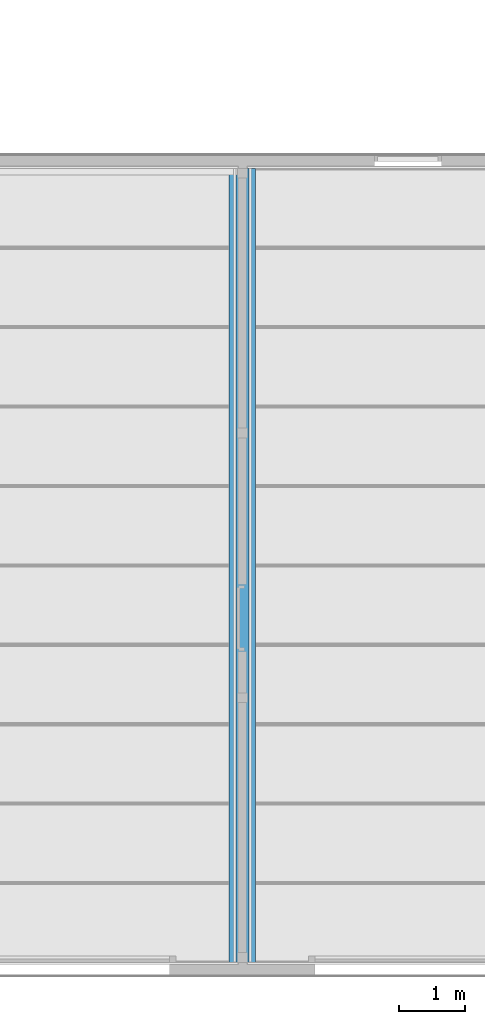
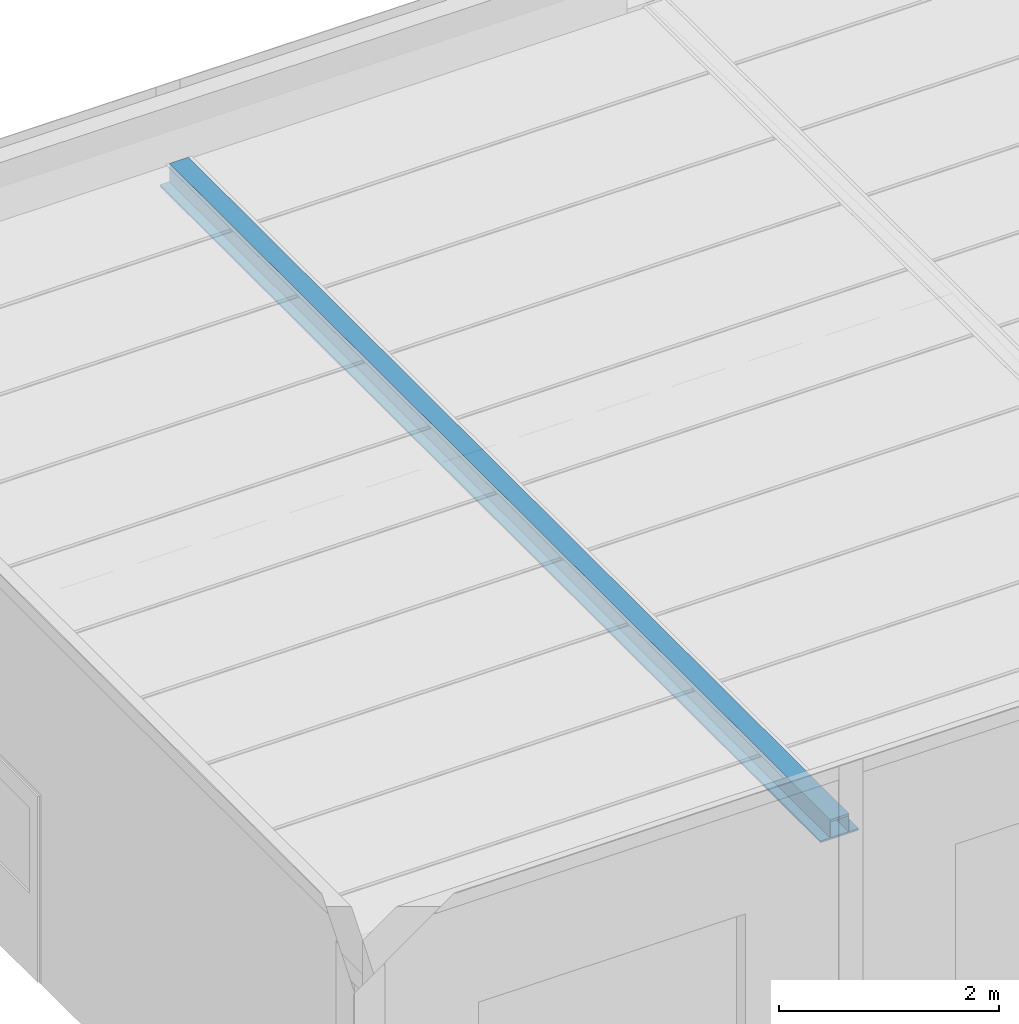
# One storey, part 5 of 45: 1 beam.
"""IFC2X3 building model written with IfcOpenShell, lengths in millimetres."""

from ifc_helpers import new_model, entity, si_unit, converted_unit, frame, origin, place, context, subcontext, project, spatial, faceted_brep, material, element, save


model = new_model("IFC2X3")

# Units and contexts
model_context = context("Model", 3, precision=1e-05, world=origin())
plan_context = context("Plan", 3, precision=1e-05, world=origin())
body_context = subcontext(model_context, "Body", "Model", "MODEL_VIEW")
ifc_project = project(units=[si_unit("LENGTHUNIT", "METRE", prefix="MILLI"), converted_unit("PLANEANGLEUNIT", "DEGREE", entity("IfcPlaneAngleMeasure", 0.0174532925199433), si_unit("PLANEANGLEUNIT", "RADIAN"), dimensions=[0, 0, 0, 0, 0, 0, 0]), si_unit("AREAUNIT", "SQUARE_METRE"), si_unit("VOLUMEUNIT", "CUBIC_METRE")], contexts=[model_context, plan_context])

# Building, storey
building_placement = place(None, origin())
building = spatial("IfcBuilding", under=ifc_project, at=building_placement, Name="HEKF Administrasjonbygg", CompositionType="ELEMENT")
storey_placement = place(building_placement, frame((0.0, 0.0, 6500.0), z_axis=(0.0, 0.0, 1.0), x_axis=(1.0, 0.0, 0.0)))
storey = spatial("IfcBuildingStorey", under=building, at=storey_placement, Name="Plan 1", CompositionType="ELEMENT", Elevation=6500.0)

# Beam
ifc_material = material(Name="HSQ")
beam_placement = place(storey_placement, frame((0.0, 0.0, -6500.0), z_axis=(0.0, 0.0, 1.0), x_axis=(1.0, 0.0, 0.0)))
element("IfcBeam", 1, at=beam_placement, inside=storey, material=ifc_material, context=body_context, shape_type="Brep", body=[
    faceted_brep([(4800.0, -12000.0, 9670.0), (4800.0, -12000.0, 9650.0), (4800.000000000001, 1.535012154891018e-14, 9650.0), (4800.000000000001, 1.535012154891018e-14, 9670.0), (5200.0, -12000.0, 9670.0), (5200.0, -12000.0, 9650.0), (4800.0, -12000.0, 9650.0), (4800.0, -12000.0, 9670.0), (4900.0, -12000.0, 9670.0), (4900.0, -12000.0, 9870.0), (5100.0, -12000.0, 9870.0), (5100.0, -12000.0, 9670.0), (4905.0, -12000.0, 9670.0), (5095.0, -12000.0, 9670.0), (5095.0, -12000.0, 9845.0), (4905.0, -12000.0, 9845.0), (5200.000000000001, -1.535012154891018e-14, 9670.0), (5200.000000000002, -1.535012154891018e-14, 9650.0), (5200.0, -12000.0, 9650.0), (5200.0, -12000.0, 9670.0), (4800.000000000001, 1.535012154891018e-14, 9670.0), (4800.000000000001, 1.535012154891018e-14, 9650.0), (5200.000000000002, -1.535012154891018e-14, 9650.0), (5200.000000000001, -1.535012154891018e-14, 9670.0), (5100.000000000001, 1.608122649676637e-14, 9670.0), (5100.000000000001, 1.608122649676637e-14, 9870.0), (4900.000000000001, 4.82436794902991e-14, 9870.0), (4900.000000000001, 4.82436794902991e-14, 9670.0), (4905.000000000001, 4.743961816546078e-14, 9670.0), (4905.000000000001, 4.743961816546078e-14, 9845.0), (5095.000000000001, 1.688528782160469e-14, 9845.0), (5095.000000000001, 1.688528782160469e-14, 9670.0), (4800.0, -12000.0, 9650.0), (5200.0, -12000.0, 9650.0), (5200.000000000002, -1.535012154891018e-14, 9650.0), (4800.000000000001, 1.535012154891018e-14, 9650.0), (5200.0, -12000.0, 9670.0), (5100.0, -12000.0, 9670.0), (5100.000000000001, 1.608122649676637e-14, 9670.0), (5200.000000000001, -1.535012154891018e-14, 9670.0), (5100.0, -12000.0, 9670.0), (5100.0, -12000.0, 9870.0), (5100.000000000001, 1.608122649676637e-14, 9870.0), (5100.000000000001, 1.608122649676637e-14, 9670.0), (5100.0, -12000.0, 9870.0), (4900.0, -12000.0, 9870.0), (4900.000000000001, 4.82436794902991e-14, 9870.0), (5100.000000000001, 1.608122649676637e-14, 9870.0), (4900.0, -12000.0, 9870.0), (4900.0, -12000.0, 9670.0), (4900.000000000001, 4.82436794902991e-14, 9670.0), (4900.000000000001, 4.82436794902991e-14, 9870.0), (4900.0, -12000.0, 9670.0), (4800.0, -12000.0, 9670.0), (4800.000000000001, 1.535012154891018e-14, 9670.0), (4900.000000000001, 4.82436794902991e-14, 9670.0), (4905.0, -12000.0, 9670.0), (4905.0, -12000.0, 9845.0), (4905.000000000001, 4.743961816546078e-14, 9845.0), (4905.000000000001, 4.743961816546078e-14, 9670.0), (4905.0, -12000.0, 9845.0), (5095.0, -12000.0, 9845.0), (5095.000000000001, 1.688528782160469e-14, 9845.0), (4905.000000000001, 4.743961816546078e-14, 9845.0), (5095.0, -12000.0, 9845.0), (5095.0, -12000.0, 9670.0), (5095.000000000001, 1.688528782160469e-14, 9670.0), (5095.000000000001, 1.688528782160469e-14, 9845.0), (5095.0, -12000.0, 9670.0), (4905.0, -12000.0, 9670.0), (4905.000000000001, 4.743961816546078e-14, 9670.0), (5095.000000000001, 1.688528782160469e-14, 9670.0)], [[[0, 1, 2, 3]], [[4, 5, 6, 7, 8, 9, 10, 11], [12, 13, 14, 15]], [[16, 17, 18, 19]], [[20, 21, 22, 23, 24, 25, 26, 27], [28, 29, 30, 31]], [[32, 33, 34, 35]], [[36, 37, 38, 39]], [[40, 41, 42, 43]], [[44, 45, 46, 47]], [[48, 49, 50, 51]], [[52, 53, 54, 55]], [[56, 57, 58, 59]], [[60, 61, 62, 63]], [[64, 65, 66, 67]], [[68, 69, 70, 71]]], orient=[[False], [False, False], [False], [False, False], [False], [False], [False], [False], [False], [False], [False], [False], [False], [False]]),
])

save(model, "model.ifc")
